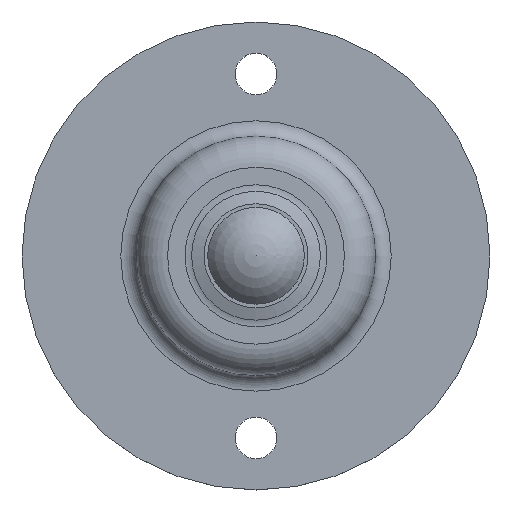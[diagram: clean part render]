
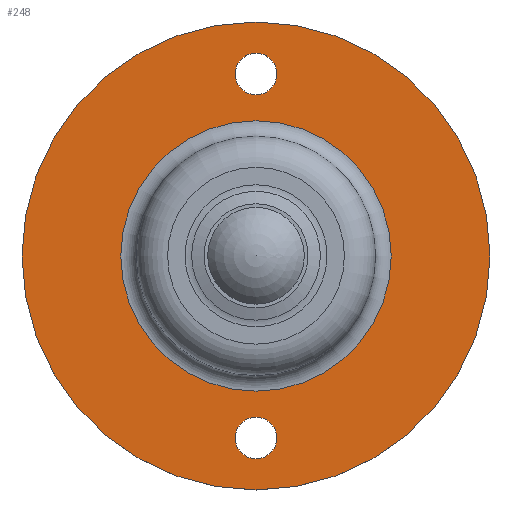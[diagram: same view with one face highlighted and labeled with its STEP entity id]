
A CAD part, top view. The second image highlights one B-rep face of the part: STEP entity #248.
In plain terms, the highlighted planar face has unit normal (0, 0, 1).
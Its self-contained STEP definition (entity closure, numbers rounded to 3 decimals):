
#16=PLANE('',#277);
#29=FACE_BOUND('',#83,.T.);
#30=FACE_BOUND('',#84,.T.);
#31=FACE_BOUND('',#85,.T.);
#59=FACE_OUTER_BOUND('',#82,.T.);
#82=EDGE_LOOP('',(#187));
#83=EDGE_LOOP('',(#188));
#84=EDGE_LOOP('',(#189));
#85=EDGE_LOOP('',(#190));
#119=CIRCLE('',#270,2.);
#121=CIRCLE('',#273,2.);
#122=CIRCLE('',#275,13.);
#124=CIRCLE('',#278,22.5);
#140=VERTEX_POINT('',#398);
#142=VERTEX_POINT('',#403);
#143=VERTEX_POINT('',#406);
#145=VERTEX_POINT('',#411);
#161=EDGE_CURVE('',#140,#140,#119,.T.);
#163=EDGE_CURVE('',#142,#142,#121,.T.);
#164=EDGE_CURVE('',#143,#143,#122,.T.);
#166=EDGE_CURVE('',#145,#145,#124,.T.);
#187=ORIENTED_EDGE('',*,*,#166,.F.);
#188=ORIENTED_EDGE('',*,*,#161,.T.);
#189=ORIENTED_EDGE('',*,*,#163,.T.);
#190=ORIENTED_EDGE('',*,*,#164,.T.);
#248=ADVANCED_FACE('',(#59,#29,#30,#31),#16,.T.);
#270=AXIS2_PLACEMENT_3D('',#399,#317,#318);
#273=AXIS2_PLACEMENT_3D('',#404,#323,#324);
#275=AXIS2_PLACEMENT_3D('',#407,#327,#328);
#277=AXIS2_PLACEMENT_3D('',#410,#331,#332);
#278=AXIS2_PLACEMENT_3D('',#412,#333,#334);
#317=DIRECTION('center_axis',(0.,0.,-1.));
#318=DIRECTION('ref_axis',(-1.,0.,0.));
#323=DIRECTION('center_axis',(0.,0.,-1.));
#324=DIRECTION('ref_axis',(1.,0.,0.));
#327=DIRECTION('center_axis',(0.,0.,-1.));
#328=DIRECTION('ref_axis',(0.,1.,0.));
#331=DIRECTION('center_axis',(0.,0.,1.));
#332=DIRECTION('ref_axis',(1.,0.,0.));
#333=DIRECTION('center_axis',(0.,0.,-1.));
#334=DIRECTION('ref_axis',(0.,1.,0.));
#398=CARTESIAN_POINT('',(-2.,-17.5,1.6));
#399=CARTESIAN_POINT('Origin',(0.,-17.5,1.6));
#403=CARTESIAN_POINT('',(2.,17.5,1.6));
#404=CARTESIAN_POINT('Origin',(0.,17.5,1.6));
#406=CARTESIAN_POINT('',(0.,13.,1.6));
#407=CARTESIAN_POINT('Origin',(0.,0.,1.6));
#410=CARTESIAN_POINT('Origin',(0.,17.75,1.6));
#411=CARTESIAN_POINT('',(0.,22.5,1.6));
#412=CARTESIAN_POINT('Origin',(0.,0.,1.6));
